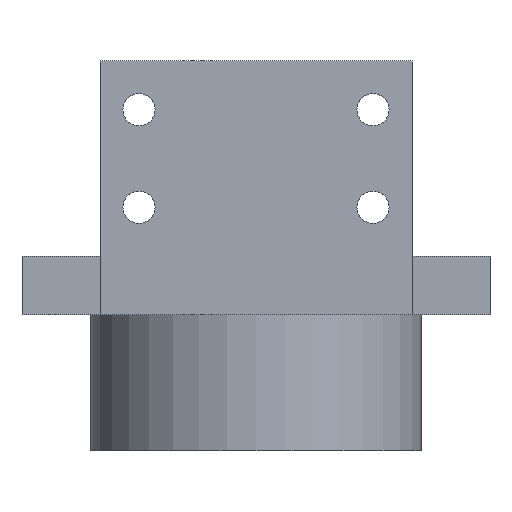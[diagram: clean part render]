
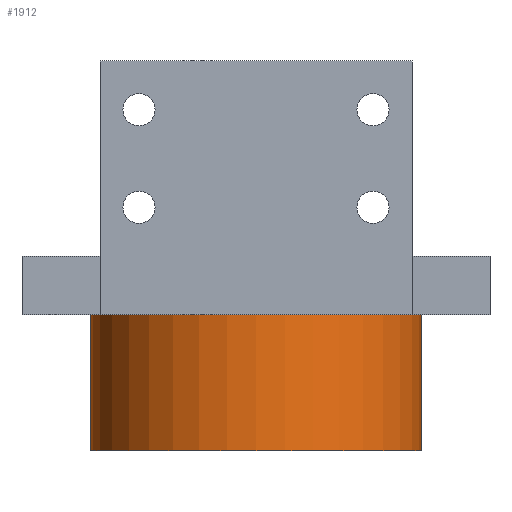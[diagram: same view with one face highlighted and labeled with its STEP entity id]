
A CAD part, front view. The second image highlights one B-rep face of the part: STEP entity #1912.
In plain terms, the highlighted cylindrical face has radius 17 mm (diameter 34 mm), a full revolution.
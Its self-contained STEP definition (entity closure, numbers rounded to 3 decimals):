
#72 = PLANE('',#73);
#73 = AXIS2_PLACEMENT_3D('',#74,#75,#76);
#74 = CARTESIAN_POINT('',(-24.,-59.8,-41.));
#75 = DIRECTION('',(0.,0.,1.));
#76 = DIRECTION('',(1.,0.,0.));
#767 = EDGE_CURVE('',#768,#768,#770,.T.);
#768 = VERTEX_POINT('',#769);
#769 = CARTESIAN_POINT('',(0.,17.,-41.));
#770 = SURFACE_CURVE('',#771,(#776,#787),.PCURVE_S1.);
#771 = CIRCLE('',#772,17.);
#772 = AXIS2_PLACEMENT_3D('',#773,#774,#775);
#773 = CARTESIAN_POINT('',(0.,0.,-41.));
#774 = DIRECTION('',(-0.,0.,-1.));
#775 = DIRECTION('',(0.,1.,0.));
#776 = PCURVE('',#72,#777);
#777 = DEFINITIONAL_REPRESENTATION('',(#778),#786);
#778 = ( BOUNDED_CURVE() B_SPLINE_CURVE(2,(#779,#780,#781,#782,#783,#784
,#785),.UNSPECIFIED.,.T.,.F.) B_SPLINE_CURVE_WITH_KNOTS((1,2,2,2,2,1),(
    -2.094,0.,2.094,4.189,6.283,
8.378),.UNSPECIFIED.) CURVE() GEOMETRIC_REPRESENTATION_ITEM() 
RATIONAL_B_SPLINE_CURVE((1.,0.5,1.,0.5,1.,0.5,1.)) REPRESENTATION_ITEM(
  '') );
#779 = CARTESIAN_POINT('',(24.,76.8));
#780 = CARTESIAN_POINT('',(53.445,76.8));
#781 = CARTESIAN_POINT('',(38.722,51.3));
#782 = CARTESIAN_POINT('',(24.,25.8));
#783 = CARTESIAN_POINT('',(9.278,51.3));
#784 = CARTESIAN_POINT('',(-5.445,76.8));
#785 = CARTESIAN_POINT('',(24.,76.8));
#786 = ( GEOMETRIC_REPRESENTATION_CONTEXT(2) 
PARAMETRIC_REPRESENTATION_CONTEXT() REPRESENTATION_CONTEXT('2D SPACE',''
  ) );
#787 = PCURVE('',#788,#793);
#788 = CYLINDRICAL_SURFACE('',#789,17.);
#789 = AXIS2_PLACEMENT_3D('',#790,#791,#792);
#790 = CARTESIAN_POINT('',(0.,0.,-55.));
#791 = DIRECTION('',(-0.,0.,-1.));
#792 = DIRECTION('',(0.,1.,0.));
#793 = DEFINITIONAL_REPRESENTATION('',(#794),#798);
#794 = LINE('',#795,#796);
#795 = CARTESIAN_POINT('',(-6.283,-14.));
#796 = VECTOR('',#797,1.);
#797 = DIRECTION('',(1.,-0.));
#798 = ( GEOMETRIC_REPRESENTATION_CONTEXT(2) 
PARAMETRIC_REPRESENTATION_CONTEXT() REPRESENTATION_CONTEXT('2D SPACE',''
  ) );
#1912 = ADVANCED_FACE('',(#1913),#788,.T.);
#1913 = FACE_BOUND('',#1914,.F.);
#1914 = EDGE_LOOP('',(#1915,#1944,#1965,#1966));
#1915 = ORIENTED_EDGE('',*,*,#1916,.F.);
#1916 = EDGE_CURVE('',#1917,#1917,#1919,.T.);
#1917 = VERTEX_POINT('',#1918);
#1918 = CARTESIAN_POINT('',(0.,17.,-55.));
#1919 = SURFACE_CURVE('',#1920,(#1925,#1932),.PCURVE_S1.);
#1920 = CIRCLE('',#1921,17.);
#1921 = AXIS2_PLACEMENT_3D('',#1922,#1923,#1924);
#1922 = CARTESIAN_POINT('',(0.,0.,-55.));
#1923 = DIRECTION('',(0.,-0.,1.));
#1924 = DIRECTION('',(0.,1.,0.));
#1925 = PCURVE('',#788,#1926);
#1926 = DEFINITIONAL_REPRESENTATION('',(#1927),#1931);
#1927 = LINE('',#1928,#1929);
#1928 = CARTESIAN_POINT('',(-0.,0.));
#1929 = VECTOR('',#1930,1.);
#1930 = DIRECTION('',(-1.,0.));
#1931 = ( GEOMETRIC_REPRESENTATION_CONTEXT(2) 
PARAMETRIC_REPRESENTATION_CONTEXT() REPRESENTATION_CONTEXT('2D SPACE',''
  ) );
#1932 = PCURVE('',#1933,#1938);
#1933 = PLANE('',#1934);
#1934 = AXIS2_PLACEMENT_3D('',#1935,#1936,#1937);
#1935 = CARTESIAN_POINT('',(0.,0.,-55.
    ));
#1936 = DIRECTION('',(0.,0.,1.));
#1937 = DIRECTION('',(1.,0.,-0.));
#1938 = DEFINITIONAL_REPRESENTATION('',(#1939),#1943);
#1939 = CIRCLE('',#1940,17.);
#1940 = AXIS2_PLACEMENT_2D('',#1941,#1942);
#1941 = CARTESIAN_POINT('',(0.,0.));
#1942 = DIRECTION('',(0.,1.));
#1943 = ( GEOMETRIC_REPRESENTATION_CONTEXT(2) 
PARAMETRIC_REPRESENTATION_CONTEXT() REPRESENTATION_CONTEXT('2D SPACE',''
  ) );
#1944 = ORIENTED_EDGE('',*,*,#1945,.T.);
#1945 = EDGE_CURVE('',#1917,#768,#1946,.T.);
#1946 = SEAM_CURVE('',#1947,(#1951,#1958),.PCURVE_S1.);
#1947 = LINE('',#1948,#1949);
#1948 = CARTESIAN_POINT('',(0.,17.,-55.));
#1949 = VECTOR('',#1950,1.);
#1950 = DIRECTION('',(0.,0.,1.));
#1951 = PCURVE('',#788,#1952);
#1952 = DEFINITIONAL_REPRESENTATION('',(#1953),#1957);
#1953 = LINE('',#1954,#1955);
#1954 = CARTESIAN_POINT('',(-6.283,0.));
#1955 = VECTOR('',#1956,1.);
#1956 = DIRECTION('',(-0.,-1.));
#1957 = ( GEOMETRIC_REPRESENTATION_CONTEXT(2) 
PARAMETRIC_REPRESENTATION_CONTEXT() REPRESENTATION_CONTEXT('2D SPACE',''
  ) );
#1958 = PCURVE('',#788,#1959);
#1959 = DEFINITIONAL_REPRESENTATION('',(#1960),#1964);
#1960 = LINE('',#1961,#1962);
#1961 = CARTESIAN_POINT('',(-0.,0.));
#1962 = VECTOR('',#1963,1.);
#1963 = DIRECTION('',(-0.,-1.));
#1964 = ( GEOMETRIC_REPRESENTATION_CONTEXT(2) 
PARAMETRIC_REPRESENTATION_CONTEXT() REPRESENTATION_CONTEXT('2D SPACE',''
  ) );
#1965 = ORIENTED_EDGE('',*,*,#767,.F.);
#1966 = ORIENTED_EDGE('',*,*,#1945,.F.);
